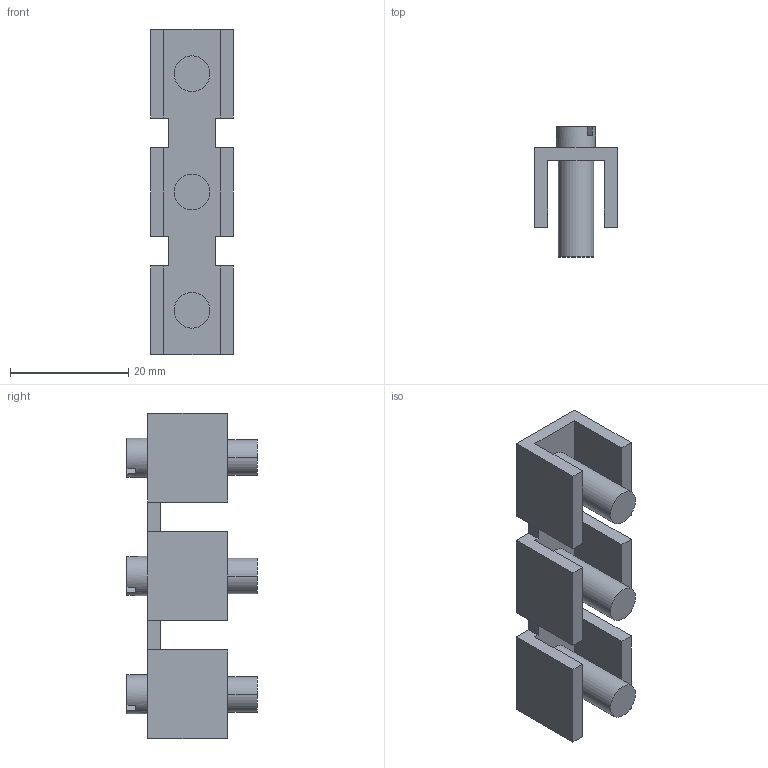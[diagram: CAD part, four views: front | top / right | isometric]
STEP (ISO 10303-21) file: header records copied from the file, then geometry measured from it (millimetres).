
FILE_DESCRIPTION( ('This file contains a STEP AP42 implementation' ,'as created by ZW3D STEP Interface translator.') ,'2;1' );
FILE_NAME( 'FBI 3-20桥接件-模型.stp' ,'231227.165219', (''), ('ZWCAD Software Co.'), 'Version 1.0', 'ZW3D to STEP translator', '' );
FILE_SCHEMA(('AUTOMOTIVE_DESIGN { 1 0 10303 214 1 1 1 1 }'));
Length unit declared in the file: millimetre
Products named in the file (2): 0; FBI_3-20-select
Bounding box: 13.9 x 22 x 55 mm (x, y, z)
Volume: 5495.9 mm3; surface area: 5285.4 mm2
Topology: 1 solids, 1 shells, 61 faces, 159 edges, 106 vertices
Faces by surface type: plane 52, cylinder 9
Full cylindrical faces by diameter (mm): 6.6 x3
Entity records: 1954 total; most frequent: CARTESIAN_POINT 327, ORIENTED_EDGE 318, DIRECTION 313, EDGE_CURVE 159, VECTOR 129, LINE 129, VERTEX_POINT 106, AXIS2_PLACEMENT_3D 92
